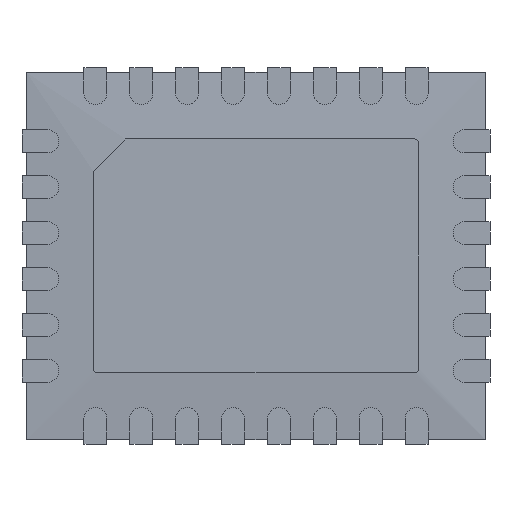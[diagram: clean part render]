
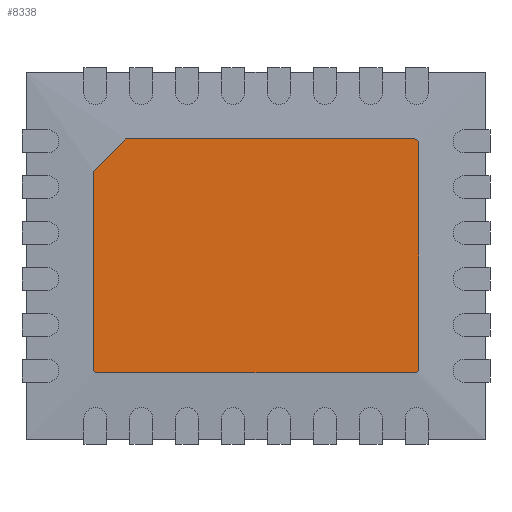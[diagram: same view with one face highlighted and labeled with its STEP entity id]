
A CAD part, front view. The second image highlights one B-rep face of the part: STEP entity #8338.
In plain terms, the highlighted planar face has unit normal (0, -1, 0).
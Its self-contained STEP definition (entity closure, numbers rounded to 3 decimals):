
#8150 = CARTESIAN_POINT ( 'NONE',  ( 1.775, 0., 1.225 ) ) ;
#8151 = VERTEX_POINT ( 'NONE', #8150 ) ;
#8158 = CARTESIAN_POINT ( 'NONE',  ( 1.775, 0., -1.225 ) ) ;
#8159 = VERTEX_POINT ( 'NONE', #8158 ) ;
#8160 = CARTESIAN_POINT ( 'NONE',  ( 1.775, 0., -1.275 ) ) ;
#8161 = DIRECTION ( 'NONE',  ( 0., 0., 1. ) ) ;
#8162 = VECTOR ( 'NONE', #8161, 1000. ) ;
#8163 = LINE ( 'NONE', #8160, #8162 ) ;
#8164 = EDGE_CURVE ( 'NONE', #8159, #8151, #8163, .T. ) ;
#8180 = CARTESIAN_POINT ( 'NONE',  ( 1.725, 0., 1.275 ) ) ;
#8181 = VERTEX_POINT ( 'NONE', #8180 ) ;
#8182 = CARTESIAN_POINT ( 'NONE',  ( -1.425, 0., 1.275 ) ) ;
#8183 = VERTEX_POINT ( 'NONE', #8182 ) ;
#8184 = CARTESIAN_POINT ( 'NONE',  ( -1.775, 0., 1.275 ) ) ;
#8185 = DIRECTION ( 'NONE',  ( -1., 0., 0. ) ) ;
#8186 = VECTOR ( 'NONE', #8185, 1000. ) ;
#8187 = LINE ( 'NONE', #8184, #8186 ) ;
#8188 = EDGE_CURVE ( 'NONE', #8181, #8183, #8187, .T. ) ;
#8230 = CARTESIAN_POINT ( 'NONE',  ( -1.775, 0., -1.225 ) ) ;
#8231 = VERTEX_POINT ( 'NONE', #8230 ) ;
#8238 = CARTESIAN_POINT ( 'NONE',  ( -1.775, 0., 0.925 ) ) ;
#8239 = VERTEX_POINT ( 'NONE', #8238 ) ;
#8240 = CARTESIAN_POINT ( 'NONE',  ( -1.775, 0., -1.275 ) ) ;
#8241 = DIRECTION ( 'NONE',  ( 0., 0., -1. ) ) ;
#8242 = VECTOR ( 'NONE', #8241, 1000. ) ;
#8243 = LINE ( 'NONE', #8240, #8242 ) ;
#8244 = EDGE_CURVE ( 'NONE', #8239, #8231, #8243, .T. ) ;
#8270 = CARTESIAN_POINT ( 'NONE',  ( 1.725, 0., -1.275 ) ) ;
#8271 = VERTEX_POINT ( 'NONE', #8270 ) ;
#8278 = CARTESIAN_POINT ( 'NONE',  ( -1.725, 0., -1.275 ) ) ;
#8279 = VERTEX_POINT ( 'NONE', #8278 ) ;
#8280 = CARTESIAN_POINT ( 'NONE',  ( -1.775, 0., -1.275 ) ) ;
#8281 = DIRECTION ( 'NONE',  ( 1., 0., 0. ) ) ;
#8282 = VECTOR ( 'NONE', #8281, 1000. ) ;
#8283 = LINE ( 'NONE', #8280, #8282 ) ;
#8284 = EDGE_CURVE ( 'NONE', #8279, #8271, #8283, .T. ) ;
#8300 = ORIENTED_EDGE ( 'NONE', *, *, #8164, .T. ) ;
#8301 = CARTESIAN_POINT ( 'NONE',  ( 1.725, 0., 1.225 ) ) ;
#8302 = DIRECTION ( 'NONE',  ( 0., -1., 0. ) ) ;
#8303 = DIRECTION ( 'NONE',  ( 0., 0., 1. ) ) ;
#8304 = AXIS2_PLACEMENT_3D ( 'NONE', #8301, #8302, #8303 ) ;
#8305 = CIRCLE ( 'NONE', #8304, 0.05) ;
#8306 = EDGE_CURVE ( 'NONE', #8151, #8181, #8305, .T. ) ;
#8307 = ORIENTED_EDGE ( 'NONE', *, *, #8306, .T. ) ;
#8308 = ORIENTED_EDGE ( 'NONE', *, *, #8188, .T. ) ;
#8309 = CARTESIAN_POINT ( 'NONE',  ( -1.775, 0., 0.925 ) ) ;
#8310 = DIRECTION ( 'NONE',  ( -0.707, 0., -0.707 ) ) ;
#8311 = VECTOR ( 'NONE', #8310, 1000. ) ;
#8312 = LINE ( 'NONE', #8309, #8311 ) ;
#8313 = EDGE_CURVE ( 'NONE', #8183, #8239, #8312, .T. ) ;
#8314 = ORIENTED_EDGE ( 'NONE', *, *, #8313, .T. ) ;
#8315 = ORIENTED_EDGE ( 'NONE', *, *, #8244, .T. ) ;
#8316 = CARTESIAN_POINT ( 'NONE',  ( -1.725, 0., -1.225 ) ) ;
#8317 = DIRECTION ( 'NONE',  ( 0., -1., 0. ) ) ;
#8318 = DIRECTION ( 'NONE',  ( 0., 0., 1. ) ) ;
#8319 = AXIS2_PLACEMENT_3D ( 'NONE', #8316, #8317, #8318 ) ;
#8320 = CIRCLE ( 'NONE', #8319, 0.05) ;
#8321 = EDGE_CURVE ( 'NONE', #8231, #8279, #8320, .T. ) ;
#8322 = ORIENTED_EDGE ( 'NONE', *, *, #8321, .T. ) ;
#8323 = ORIENTED_EDGE ( 'NONE', *, *, #8284, .T. ) ;
#8324 = CARTESIAN_POINT ( 'NONE',  ( 1.725, 0., -1.225 ) ) ;
#8325 = DIRECTION ( 'NONE',  ( 0., -1., 0. ) ) ;
#8326 = DIRECTION ( 'NONE',  ( 0., 0., 1. ) ) ;
#8327 = AXIS2_PLACEMENT_3D ( 'NONE', #8324, #8325, #8326 ) ;
#8328 = CIRCLE ( 'NONE', #8327, 0.05) ;
#8329 = EDGE_CURVE ( 'NONE', #8271, #8159, #8328, .T. ) ;
#8330 = ORIENTED_EDGE ( 'NONE', *, *, #8329, .T. ) ;
#8331 = EDGE_LOOP ( 'NONE', ( #8300, #8307, #8308, #8314, #8315, #8322, #8323, #8330 ) ) ;
#8332 = FACE_OUTER_BOUND ( 'NONE', #8331, .T. ) ;
#8333 = CARTESIAN_POINT ( 'NONE',  ( 0., 0., 0. ) ) ;
#8334 = DIRECTION ( 'NONE',  ( 0., 1., 0. ) ) ;
#8335 = DIRECTION ( 'NONE',  ( 0., 0., 1. ) ) ;
#8336 = AXIS2_PLACEMENT_3D ( 'NONE', #8333, #8334, #8335 ) ;
#8337 = PLANE ( 'NONE', #8336 ) ;
#8338 = ADVANCED_FACE ( 'NONE', ( #8332 ), #8337, .F. ) ;
